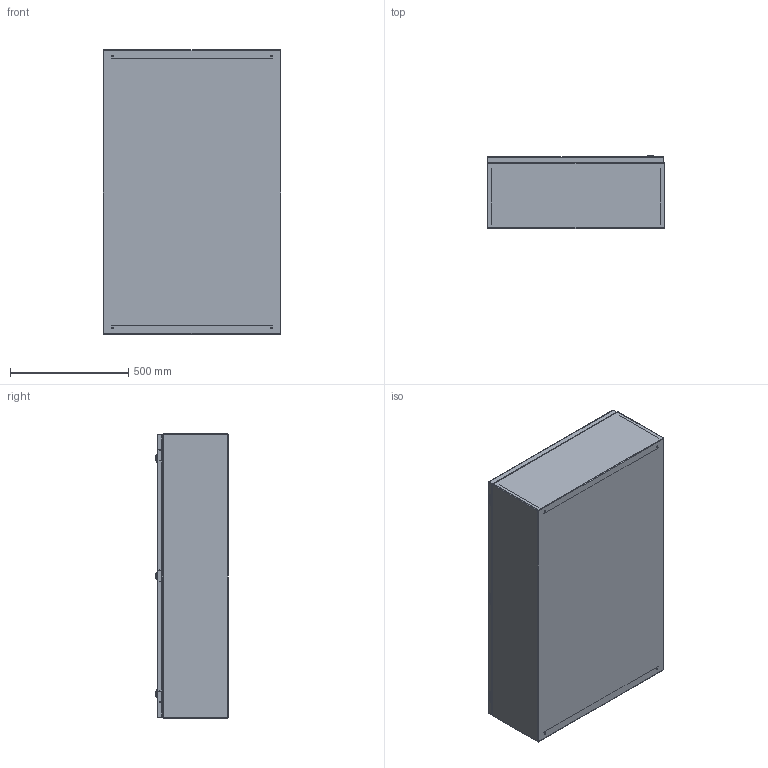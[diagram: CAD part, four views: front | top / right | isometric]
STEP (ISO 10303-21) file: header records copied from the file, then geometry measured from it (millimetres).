
FILE_DESCRIPTION (( 'STEP AP214' ), '1' );
FILE_NAME ('ÙÌÏ-06-1200õ750õ300-IP31-ÓÕË3-ÊÝÀÇ.STEP', '2023-01-24T12:23:37', ( '' ), ( '' ), 'SwSTEP 2.0', 'SolidWorks 2018', '' );
FILE_SCHEMA (( 'AUTOMOTIVE_DESIGN' ));
Length unit declared in the file: millimetre
Products named in the file (1): ÙÌÏ-06-1200õ750õ300-IP31-ÓÕË3-ÊÝÀÇ
Bounding box: 750 x 306.7 x 1200 mm (x, y, z)
Surface area: 5282301 mm2 (no closed solid volume)
Topology: 0 solids, 40 shells, 194 faces, 742 edges, 582 vertices
Faces by surface type: plane 106, cylinder 72, bspline 6, cone 6, torus 4
Entity records: 10954 total; most frequent: CARTESIAN_POINT 2605, DIRECTION 1312, ORIENTED_EDGE 1012, EDGE_CURVE 742, VERTEX_POINT 582, LINE 438, VECTOR 438, AXIS2_PLACEMENT_3D 437
